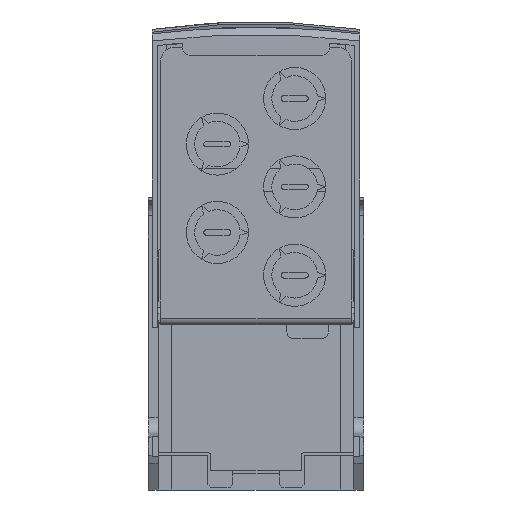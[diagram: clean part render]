
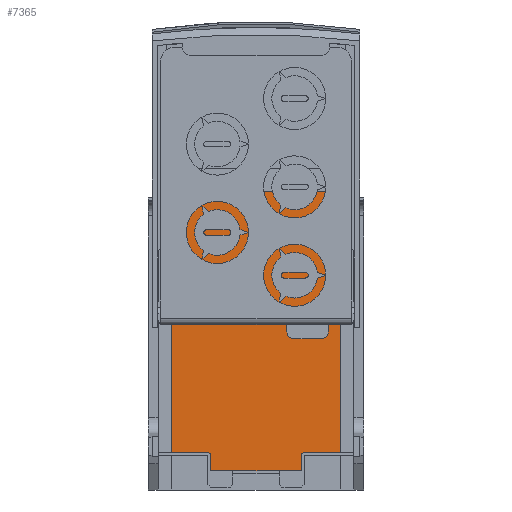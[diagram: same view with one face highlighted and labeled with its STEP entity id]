
A CAD part, front view. The second image highlights one B-rep face of the part: STEP entity #7365.
In plain terms, the highlighted planar face has unit normal (0, -1, 0).
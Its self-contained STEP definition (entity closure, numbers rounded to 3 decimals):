
#82 = CARTESIAN_POINT ( 'NONE',  ( -20.1, 31.3, -152.289 ) ) ;
#218 = DIRECTION ( 'NONE',  ( 0., -1., 0. ) ) ;
#234 = VERTEX_POINT ( 'NONE', #10800 ) ;
#571 = CARTESIAN_POINT ( 'NONE',  ( -7., 31.3, -152.289 ) ) ;
#1094 = CARTESIAN_POINT ( 'NONE',  ( -68., 31.3, -57.8 ) ) ;
#1575 = EDGE_CURVE ( 'NONE', #9173, #234, #2825, .T. ) ;
#1817 = LINE ( 'NONE', #4693, #9030 ) ;
#1833 = CARTESIAN_POINT ( 'NONE',  ( -53.9, 31.3, -153.289 ) ) ;
#1838 = CARTESIAN_POINT ( 'NONE',  ( -68., 31.3, -57.8 ) ) ;
#2100 = DIRECTION ( 'NONE',  ( 0., 0., -1. ) ) ;
#2211 = ORIENTED_EDGE ( 'NONE', *, *, #7387, .F. ) ;
#2467 = LINE ( 'NONE', #1838, #7158 ) ;
#2591 = VERTEX_POINT ( 'NONE', #3913 ) ;
#2661 = EDGE_CURVE ( 'NONE', #4659, #6261, #6152, .T. ) ;
#2825 = LINE ( 'NONE', #11539, #6929 ) ;
#2838 = ORIENTED_EDGE ( 'NONE', *, *, #6257, .F. ) ;
#2865 = CARTESIAN_POINT ( 'NONE',  ( -21.1, 31.3, -158.789 ) ) ;
#2985 = CIRCLE ( 'NONE', #11819, 1. ) ;
#3063 = VERTEX_POINT ( 'NONE', #7758 ) ;
#3656 = VECTOR ( 'NONE', #6857, 1000. ) ;
#3723 = DIRECTION ( 'NONE',  ( -1., 0., 0. ) ) ;
#3899 = CARTESIAN_POINT ( 'NONE',  ( -68., 31.3, -57.8 ) ) ;
#3913 = CARTESIAN_POINT ( 'NONE',  ( -53.9, 31.3, -158.789 ) ) ;
#4084 = ORIENTED_EDGE ( 'NONE', *, *, #4253, .F. ) ;
#4205 = ORIENTED_EDGE ( 'NONE', *, *, #10541, .T. ) ;
#4251 = EDGE_CURVE ( 'NONE', #6758, #7081, #7975, .T. ) ;
#4253 = EDGE_CURVE ( 'NONE', #10644, #4659, #2985, .T. ) ;
#4352 = CARTESIAN_POINT ( 'NONE',  ( -53.9, 31.3, -158.789 ) ) ;
#4659 = VERTEX_POINT ( 'NONE', #11794 ) ;
#4693 = CARTESIAN_POINT ( 'NONE',  ( -2.1, 31.3, -152.289 ) ) ;
#4838 = DIRECTION ( 'NONE',  ( 0., 0., -1. ) ) ;
#5222 = ORIENTED_EDGE ( 'NONE', *, *, #4251, .F. ) ;
#5372 = DIRECTION ( 'NONE',  ( 0., 0., -1. ) ) ;
#5405 = CARTESIAN_POINT ( 'NONE',  ( -20.1, 31.3, -153.289 ) ) ;
#5766 = AXIS2_PLACEMENT_3D ( 'NONE', #3899, #10525, #4838 ) ;
#5833 = CARTESIAN_POINT ( 'NONE',  ( -54.9, 31.3, -153.289 ) ) ;
#6121 = DIRECTION ( 'NONE',  ( -1., 0., 0. ) ) ;
#6152 = LINE ( 'NONE', #9701, #3656 ) ;
#6257 = EDGE_CURVE ( 'NONE', #7081, #10644, #1817, .T. ) ;
#6261 = VERTEX_POINT ( 'NONE', #2865 ) ;
#6323 = DIRECTION ( 'NONE',  ( 0., 0., -1. ) ) ;
#6368 = AXIS2_PLACEMENT_3D ( 'NONE', #5833, #218, #6744 ) ;
#6744 = DIRECTION ( 'NONE',  ( 0., 0., -1. ) ) ;
#6758 = VERTEX_POINT ( 'NONE', #11204 ) ;
#6857 = DIRECTION ( 'NONE',  ( 0., 0., -1. ) ) ;
#6929 = VECTOR ( 'NONE', #2100, 1000. ) ;
#7081 = VERTEX_POINT ( 'NONE', #571 ) ;
#7158 = VECTOR ( 'NONE', #3723, 1000. ) ;
#7165 = DIRECTION ( 'NONE',  ( -1., 0., 0. ) ) ;
#7365 = ADVANCED_FACE ( 'NONE', ( #8246 ), #7629, .T. ) ;
#7387 = EDGE_CURVE ( 'NONE', #11623, #3063, #10512, .T. ) ;
#7629 = PLANE ( 'NONE',  #5766 ) ;
#7684 = VECTOR ( 'NONE', #5372, 1000. ) ;
#7758 = CARTESIAN_POINT ( 'NONE',  ( -54.9, 31.3, -152.289 ) ) ;
#7782 = EDGE_CURVE ( 'NONE', #3063, #234, #10173, .T. ) ;
#7938 = VECTOR ( 'NONE', #6121, 1000. ) ;
#7975 = LINE ( 'NONE', #12037, #7684 ) ;
#8041 = DIRECTION ( 'NONE',  ( 0., 0., 1. ) ) ;
#8246 = FACE_OUTER_BOUND ( 'NONE', #8617, .T. ) ;
#8270 = EDGE_CURVE ( 'NONE', #2591, #11623, #11849, .T. ) ;
#8316 = ORIENTED_EDGE ( 'NONE', *, *, #8270, .F. ) ;
#8455 = ORIENTED_EDGE ( 'NONE', *, *, #10360, .F. ) ;
#8617 = EDGE_LOOP ( 'NONE', ( #2838, #5222, #4205, #9303, #9937, #2211, #8316, #8455, #8817, #4084 ) ) ;
#8817 = ORIENTED_EDGE ( 'NONE', *, *, #2661, .F. ) ;
#8958 = CARTESIAN_POINT ( 'NONE',  ( -53.9, 31.3, -153.289 ) ) ;
#9030 = VECTOR ( 'NONE', #9461, 1000. ) ;
#9173 = VERTEX_POINT ( 'NONE', #1094 ) ;
#9268 = VECTOR ( 'NONE', #8041, 1000. ) ;
#9303 = ORIENTED_EDGE ( 'NONE', *, *, #1575, .T. ) ;
#9461 = DIRECTION ( 'NONE',  ( -1., 0., 0. ) ) ;
#9701 = CARTESIAN_POINT ( 'NONE',  ( -21.1, 31.3, -153.289 ) ) ;
#9937 = ORIENTED_EDGE ( 'NONE', *, *, #7782, .F. ) ;
#9955 = CARTESIAN_POINT ( 'NONE',  ( -72.9, 31.3, -152.289 ) ) ;
#10173 = LINE ( 'NONE', #9955, #7938 ) ;
#10360 = EDGE_CURVE ( 'NONE', #6261, #2591, #12110, .T. ) ;
#10512 = CIRCLE ( 'NONE', #6368, 1. ) ;
#10525 = DIRECTION ( 'NONE',  ( 0., -1., 0. ) ) ;
#10541 = EDGE_CURVE ( 'NONE', #6758, #9173, #2467, .T. ) ;
#10644 = VERTEX_POINT ( 'NONE', #82 ) ;
#10800 = CARTESIAN_POINT ( 'NONE',  ( -68., 31.3, -152.289 ) ) ;
#11204 = CARTESIAN_POINT ( 'NONE',  ( -7., 31.3, -57.8 ) ) ;
#11539 = CARTESIAN_POINT ( 'NONE',  ( -68., 31.3, -57.8 ) ) ;
#11623 = VERTEX_POINT ( 'NONE', #1833 ) ;
#11794 = CARTESIAN_POINT ( 'NONE',  ( -21.1, 31.3, -153.289 ) ) ;
#11819 = AXIS2_PLACEMENT_3D ( 'NONE', #5405, #12082, #6323 ) ;
#11825 = VECTOR ( 'NONE', #7165, 1000. ) ;
#11849 = LINE ( 'NONE', #8958, #9268 ) ;
#12037 = CARTESIAN_POINT ( 'NONE',  ( -7., 31.3, -57.8 ) ) ;
#12082 = DIRECTION ( 'NONE',  ( 0., -1., 0. ) ) ;
#12110 = LINE ( 'NONE', #4352, #11825 ) ;
